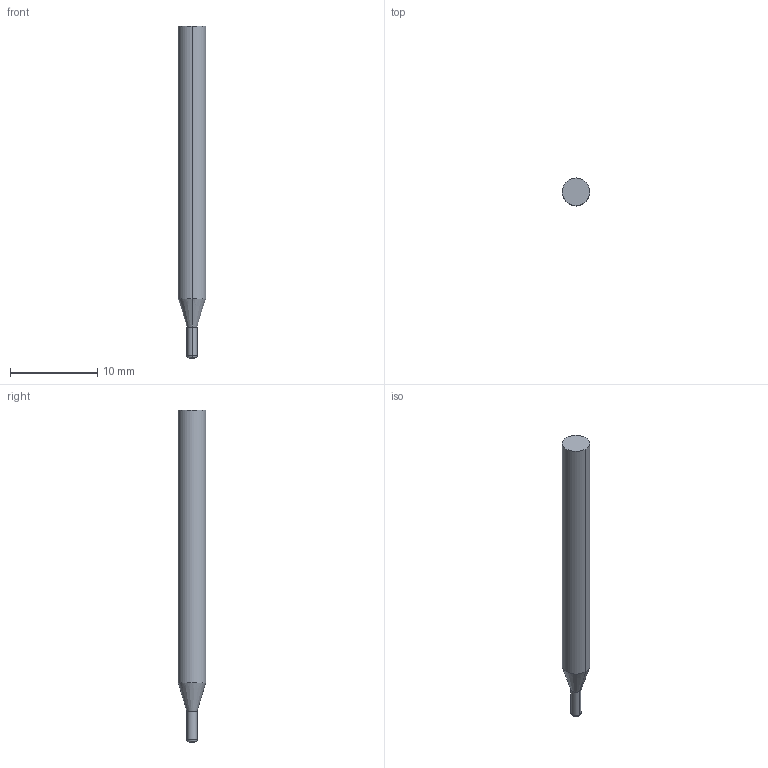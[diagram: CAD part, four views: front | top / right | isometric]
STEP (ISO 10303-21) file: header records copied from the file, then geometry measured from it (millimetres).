
FILE_DESCRIPTION((' '),'2;1');
FILE_NAME( '3MVR0468R.010AH.stp', '2026-01-21T19:05:09', (' '), ('--- Datakit www.datakit.com---'), ' Datakit CrossCadWare V2025.4 Sep 19 2025', 'Mastercam 2027', ' ');
FILE_SCHEMA(('AUTOMOTIVE_DESIGN { 1 0 10303 214 1 1 1 1 }'));
Length unit declared in the file: inch
Products named in the file (1): 3MVR0468R
Bounding box: 3.17 x 3.17 x 38.1 mm (x, y, z)
Volume: 264.7 mm3; surface area: 357.3 mm2
Topology: 1 solids, 1 shells, 10 faces, 18 edges, 10 vertices
Faces by surface type: cylinder 4, plane 2, torus 2, cone 2
Entity records: 318 total; most frequent: DIRECTION 60, CARTESIAN_POINT 43, ORIENTED_EDGE 36, AXIS2_PLACEMENT_3D 27, EDGE_CURVE 18, CIRCLE 12, VERTEX_POINT 10, EDGE_LOOP 10
